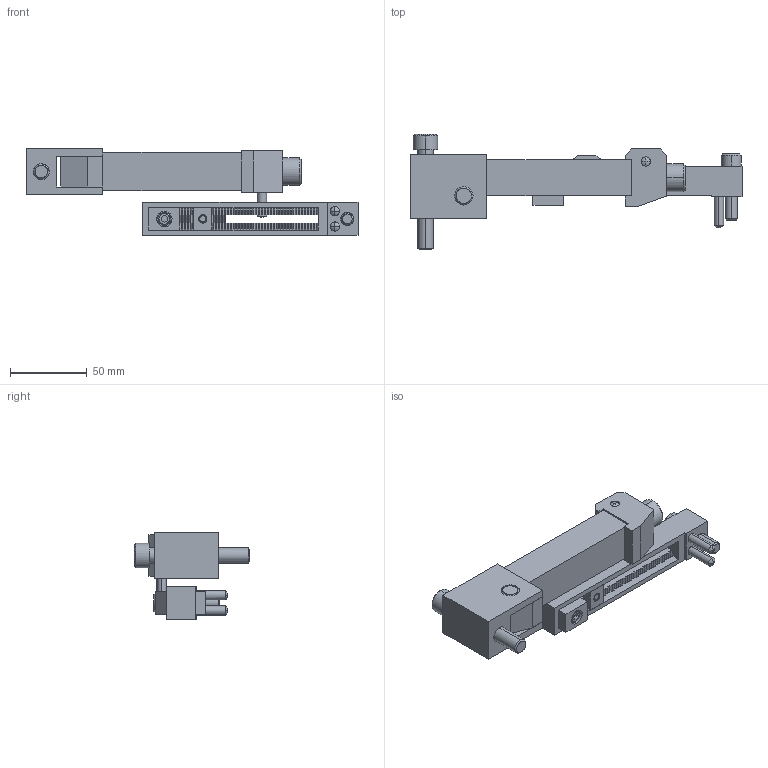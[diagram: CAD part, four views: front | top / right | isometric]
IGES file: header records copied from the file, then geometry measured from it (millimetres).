
Start section: START RECORD GO HERE.
Global section: file name: BOX140BIS.igs; native system: DASSAULT SYSTEMES CATIA V5 R20 - www.3ds.com; preprocessor: CATIA Version 5 Release 20 ; author: Utente; organization: NB04-ASUS; date: 20210221.175450; units: millimetre
Bounding box: 216 x 75 x 56.5 mm (x, y, z)
Surface area: 70952.1 mm2 (no closed solid volume)
Topology: 0 solids, 0 shells, 789 faces, 4592 edges, 4566 vertices
Faces by surface type: plane 667, revolution 122
